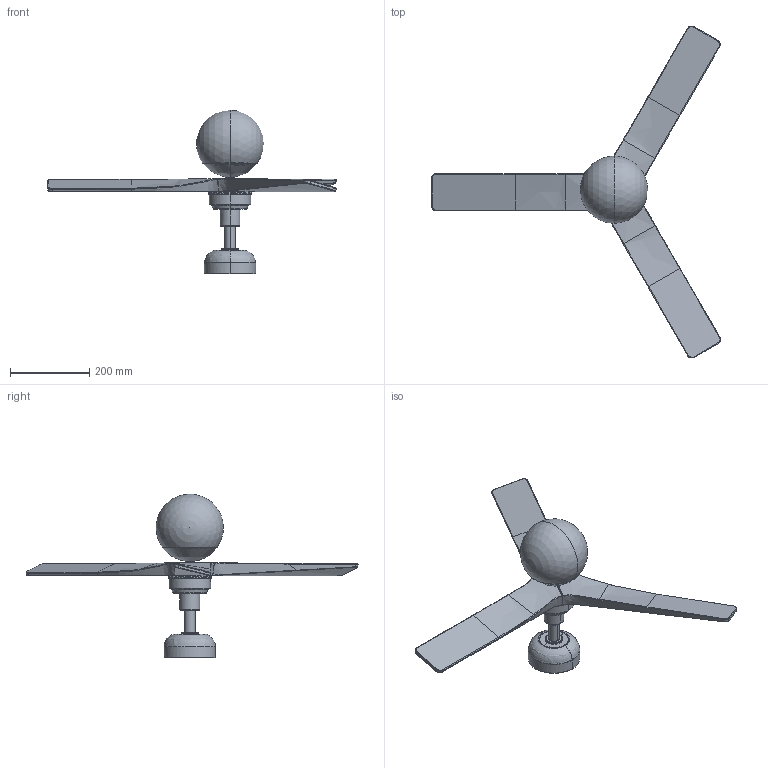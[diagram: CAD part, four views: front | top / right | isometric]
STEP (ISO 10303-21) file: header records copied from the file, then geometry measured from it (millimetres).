
FILE_DESCRIPTION(/* description */ (''),/* implementation_level */ '2;1');
FILE_NAME(/* name */ '34278-11L.step',/* time_stamp */ '2024-04-30T12:04:25+02:00',/* author */ ('RenataManzini'),/* organization */ (''),/* preprocessor_version */ 'ST-DEVELOPER v20',/* originating_system */ 'AutoCAD Mechanical',/* authorisation */ '');
FILE_SCHEMA (('AUTOMOTIVE_DESIGN { 1 0 10303 214 3 1 1 }'));
Length unit declared in the file: millimetre
Products named in the file (2): Product; FC925YP___
Assembly tree (3 placements, depth 2):
  Product
    FC925YP___  x3
Bounding box: 730.24 x 839.11 x 413.61 mm (x, y, z)
Volume: 2744633.8 mm3; surface area: 674404.7 mm2
Topology: 8 solids, 8 shells, 429 faces, 1070 edges, 663 vertices
Faces by surface type: plane 160, cylinder 121, bspline 91, torus 42, cone 11, sphere 4
Entity records: 19043 total; most frequent: CARTESIAN_POINT 11966, ORIENTED_EDGE 1546, DIRECTION 1330, EDGE_CURVE 773, AXIS2_PLACEMENT_3D 495, VERTEX_POINT 478, LINE 340, VECTOR 340
